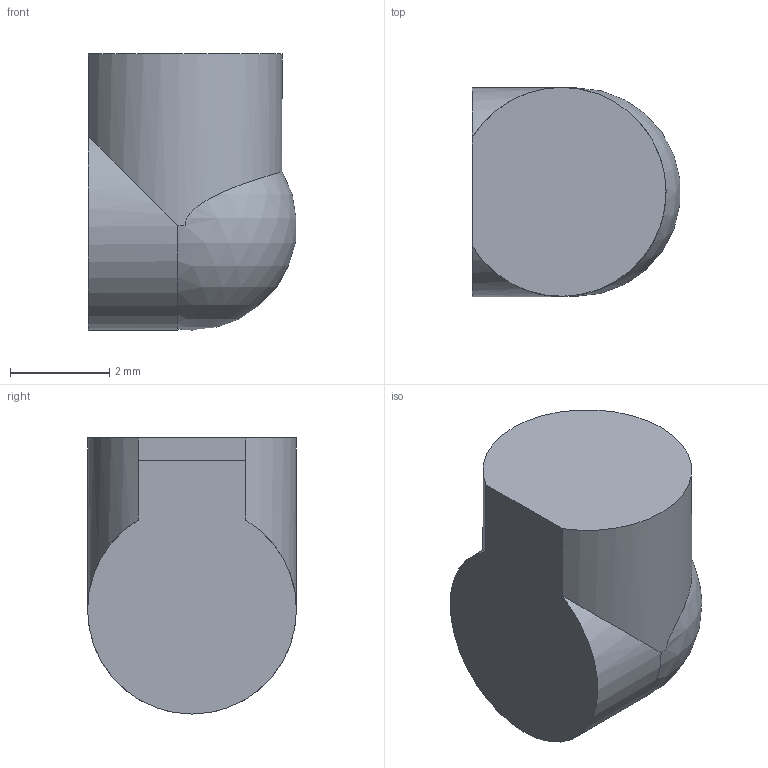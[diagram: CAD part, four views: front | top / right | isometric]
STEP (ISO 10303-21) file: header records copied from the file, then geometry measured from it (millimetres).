
FILE_DESCRIPTION(/* description */ (''),/* implementation_level */ '2;1');
FILE_NAME(/* name */ 'L02.step',/* time_stamp */ '2026-09-14T14:31:04-07:00',/* author */ (''),/* organization */ (''),/* preprocessor_version */ 'ST-DEVELOPER v20.1',/* originating_system */ 'Autodesk Translation Framework v15.8.0.0',/* authorisation */ '');
FILE_SCHEMA (('AUTOMOTIVE_DESIGN { 1 0 10303 214 3 1 1 }'));
Length unit declared in the file: millimetre
Products named in the file (1): 2026-09-14-14-31-04-958
Bounding box: 4.18 x 4.2 x 5.55 mm (x, y, z)
Volume: 72.3 mm3; surface area: 95.7 mm2
Topology: 1 solids, 1 shells, 10 faces, 25 edges, 16 vertices
Faces by surface type: plane 7, cylinder 2, sphere 1
Entity records: 362 total; most frequent: CARTESIAN_POINT 80, DIRECTION 59, ORIENTED_EDGE 48, AXIS2_PLACEMENT_3D 25, EDGE_CURVE 24, VERTEX_POINT 16, CIRCLE 12, FACE_OUTER_BOUND 10
